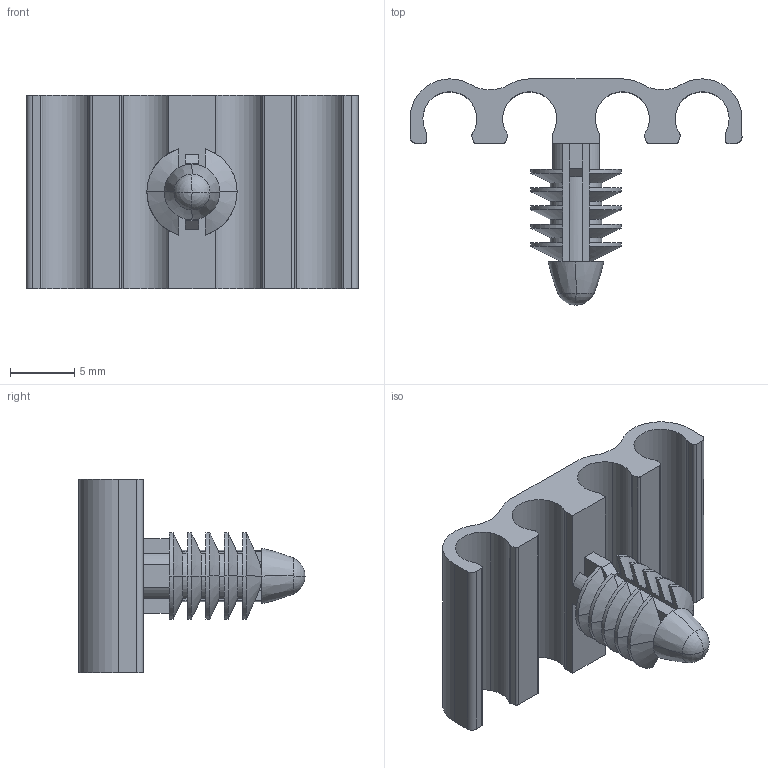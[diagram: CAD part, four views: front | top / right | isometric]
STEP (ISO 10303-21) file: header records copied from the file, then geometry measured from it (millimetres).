
FILE_DESCRIPTION(('CATIA V5 STEP Exchange'),'2;1');
FILE_NAME('C:\Users\Administrator\Desktop\孙工\四管夹.stp','2021-05-28T09:26:56+00:00',('none'),('none'),'CATIA Version 5 Release 20 GA (IN-10)','CATIA V5 STEP AP214','none');
FILE_SCHEMA(('AUTOMOTIVE_DESIGN { 1 0 10303 214 1 1 1 1 }'));
Length unit declared in the file: millimetre
Products named in the file (1): BCL0010006
Bounding box: 25.8 x 17.57 x 15 mm (x, y, z)
Volume: 1113.8 mm3; surface area: 1863.7 mm2
Topology: 1 solids, 1 shells, 154 faces, 434 edges, 279 vertices
Faces by surface type: cylinder 74, plane 42, cone 30, bspline 4, sphere 4
Entity records: 5764 total; most frequent: CARTESIAN_POINT 2061, ORIENTED_EDGE 860, DIRECTION 603, EDGE_CURVE 430, VERTEX_POINT 279, AXIS2_PLACEMENT_3D 252, VECTOR 214, LINE 214
